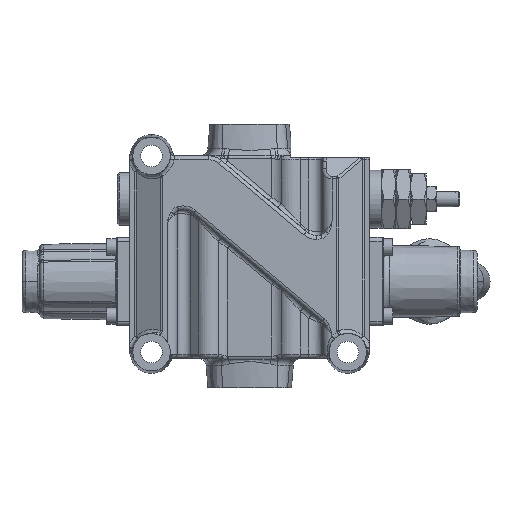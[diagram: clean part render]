
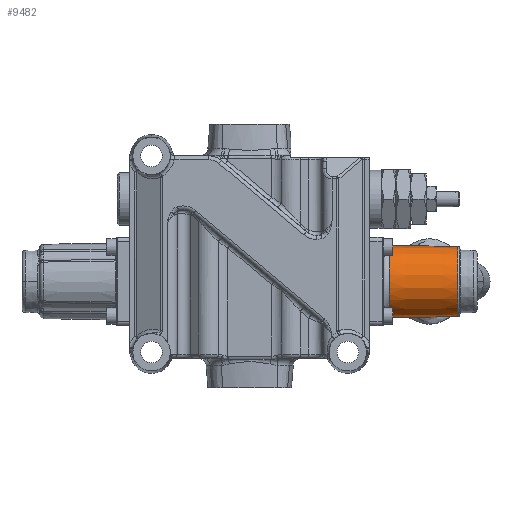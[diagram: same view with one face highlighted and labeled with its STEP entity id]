
A CAD part, front view. The second image highlights one B-rep face of the part: STEP entity #9482.
In plain terms, the highlighted conical face has half-angle 1 degrees and reference radius 18.5 mm.
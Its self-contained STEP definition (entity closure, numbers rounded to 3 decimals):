
#914 = VERTEX_POINT ( 'NONE', #14859 ) ;
#1097 = CARTESIAN_POINT ( 'NONE',  ( 71.048, 0., 0. ) ) ;
#4146 = VECTOR ( 'NONE', #11347, 1000. ) ;
#6852 = CONICAL_SURFACE ( 'NONE', #8495, 18.5, 0.017 ) ;
#7440 = CIRCLE ( 'NONE', #30270, 17.838 ) ;
#7483 = LINE ( 'NONE', #35326, #4146 ) ;
#8495 = AXIS2_PLACEMENT_3D ( 'NONE', #18241, #33591, #15620 ) ;
#8588 = CARTESIAN_POINT ( 'NONE',  ( 106.017, 0., -17.838 ) ) ;
#9145 = ORIENTED_EDGE ( 'NONE', *, *, #11913, .T. ) ;
#9482 = ADVANCED_FACE ( 'NONE', ( #22331 ), #6852, .T. ) ;
#9806 = DIRECTION ( 'NONE',  ( -1., 0., -0.017 ) ) ;
#9993 = CARTESIAN_POINT ( 'NONE',  ( 71.048, 0., -18.449 ) ) ;
#11347 = DIRECTION ( 'NONE',  ( -1., 0., 0.017 ) ) ;
#11913 = EDGE_CURVE ( 'NONE', #31139, #914, #7483, .T. ) ;
#14859 = CARTESIAN_POINT ( 'NONE',  ( 71.048, 0., 18.449 ) ) ;
#15620 = DIRECTION ( 'NONE',  ( 0., 0., -1. ) ) ;
#15906 = VERTEX_POINT ( 'NONE', #9993 ) ;
#16146 = DIRECTION ( 'NONE',  ( 0., 0., 1. ) ) ;
#16256 = ORIENTED_EDGE ( 'NONE', *, *, #22560, .F. ) ;
#17121 = EDGE_LOOP ( 'NONE', ( #17190, #9145, #26620, #16256 ) ) ;
#17190 = ORIENTED_EDGE ( 'NONE', *, *, #23886, .T. ) ;
#18241 = CARTESIAN_POINT ( 'NONE',  ( 68.1, 0., 0. ) ) ;
#19118 = CARTESIAN_POINT ( 'NONE',  ( 106.017, 0., 0. ) ) ;
#22331 = FACE_OUTER_BOUND ( 'NONE', #17121, .T. ) ;
#22560 = EDGE_CURVE ( 'NONE', #36625, #15906, #28179, .T. ) ;
#23886 = EDGE_CURVE ( 'NONE', #36625, #31139, #7440, .T. ) ;
#24732 = AXIS2_PLACEMENT_3D ( 'NONE', #1097, #30849, #24923 ) ;
#24923 = DIRECTION ( 'NONE',  ( 0., 0., -1. ) ) ;
#26620 = ORIENTED_EDGE ( 'NONE', *, *, #33880, .T. ) ;
#28179 = LINE ( 'NONE', #36430, #28623 ) ;
#28350 = CARTESIAN_POINT ( 'NONE',  ( 106.017, 0., 17.838 ) ) ;
#28623 = VECTOR ( 'NONE', #9806, 1000. ) ;
#30270 = AXIS2_PLACEMENT_3D ( 'NONE', #19118, #37099, #16146 ) ;
#30849 = DIRECTION ( 'NONE',  ( 1., 0., 0. ) ) ;
#31139 = VERTEX_POINT ( 'NONE', #28350 ) ;
#33591 = DIRECTION ( 'NONE',  ( -1., 0., 0. ) ) ;
#33880 = EDGE_CURVE ( 'NONE', #914, #15906, #38727, .T. ) ;
#35326 = CARTESIAN_POINT ( 'NONE',  ( 68.1, 0., 18.5 ) ) ;
#36430 = CARTESIAN_POINT ( 'NONE',  ( 68.1, 0., -18.5 ) ) ;
#36625 = VERTEX_POINT ( 'NONE', #8588 ) ;
#37099 = DIRECTION ( 'NONE',  ( -1., 0., 0. ) ) ;
#38727 = CIRCLE ( 'NONE', #24732, 18.449 ) ;
